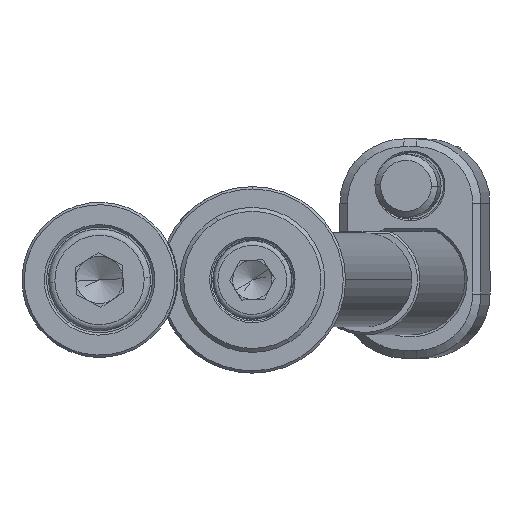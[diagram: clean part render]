
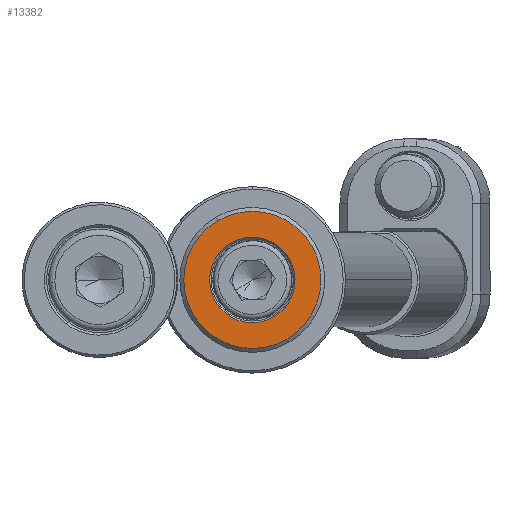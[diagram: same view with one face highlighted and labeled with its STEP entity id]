
A CAD part, front view. The second image highlights one B-rep face of the part: STEP entity #13382.
In plain terms, the highlighted planar face has unit normal (0, -1, 0).
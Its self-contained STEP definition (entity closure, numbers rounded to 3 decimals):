
#336 = DIRECTION ( 'NONE',  ( -0.505, 0., 0.863 ) ) ;
#464 = AXIS2_PLACEMENT_3D ( 'NONE', #9109, #2432, #12248 ) ;
#852 = CARTESIAN_POINT ( 'NONE',  ( 4.42, -4., -7.552 ) ) ;
#1619 = CARTESIAN_POINT ( 'NONE',  ( -4.42, -4., 7.552 ) ) ;
#1808 = VERTEX_POINT ( 'NONE', #852 ) ;
#2432 = DIRECTION ( 'NONE',  ( 0., 1., 0. ) ) ;
#2795 = EDGE_CURVE ( 'NONE', #1808, #10055, #5705, .T. ) ;
#3535 = CARTESIAN_POINT ( 'NONE',  ( -4.531, -4., -2.652 ) ) ;
#4089 = DIRECTION ( 'NONE',  ( 0., -1., 0. ) ) ;
#4090 = ORIENTED_EDGE ( 'NONE', *, *, #11148, .T. ) ;
#4395 = CIRCLE ( 'NONE', #464, 5.45 ) ;
#4559 = FACE_OUTER_BOUND ( 'NONE', #6929, .T. ) ;
#5053 = AXIS2_PLACEMENT_3D ( 'NONE', #3535, #7962, #5446 ) ;
#5281 = CARTESIAN_POINT ( 'NONE',  ( 0., -4., 0. ) ) ;
#5429 = EDGE_CURVE ( 'NONE', #9317, #7335, #9865, .T. ) ;
#5446 = DIRECTION ( 'NONE',  ( -0.505, 0., 0.863 ) ) ;
#5705 = CIRCLE ( 'NONE', #6608, 8.75 ) ;
#5735 = ORIENTED_EDGE ( 'NONE', *, *, #2795, .T. ) ;
#5850 = DIRECTION ( 'NONE',  ( 0., -1., 0. ) ) ;
#6174 = ORIENTED_EDGE ( 'NONE', *, *, #5429, .T. ) ;
#6608 = AXIS2_PLACEMENT_3D ( 'NONE', #10328, #5850, #336 ) ;
#6929 = EDGE_LOOP ( 'NONE', ( #13170, #5735 ) ) ;
#7325 = AXIS2_PLACEMENT_3D ( 'NONE', #5281, #14152, #13258 ) ;
#7335 = VERTEX_POINT ( 'NONE', #9315 ) ;
#7369 = CARTESIAN_POINT ( 'NONE',  ( 0., -4., 0. ) ) ;
#7606 = EDGE_CURVE ( 'NONE', #10055, #1808, #13594, .T. ) ;
#7744 = FACE_BOUND ( 'NONE', #8088, .T. ) ;
#7962 = DIRECTION ( 'NONE',  ( 0., 1., 0. ) ) ;
#8088 = EDGE_LOOP ( 'NONE', ( #6174, #4090 ) ) ;
#9109 = CARTESIAN_POINT ( 'NONE',  ( 0., -4., 0. ) ) ;
#9315 = CARTESIAN_POINT ( 'NONE',  ( -2.753, -4., 4.704 ) ) ;
#9317 = VERTEX_POINT ( 'NONE', #12486 ) ;
#9865 = CIRCLE ( 'NONE', #7325, 5.45 ) ;
#10055 = VERTEX_POINT ( 'NONE', #1619 ) ;
#10328 = CARTESIAN_POINT ( 'NONE',  ( 0., -4., 0. ) ) ;
#11148 = EDGE_CURVE ( 'NONE', #7335, #9317, #4395, .T. ) ;
#12248 = DIRECTION ( 'NONE',  ( -0.505, 0., 0.863 ) ) ;
#12486 = CARTESIAN_POINT ( 'NONE',  ( 2.753, -4., -4.704 ) ) ;
#13170 = ORIENTED_EDGE ( 'NONE', *, *, #7606, .T. ) ;
#13258 = DIRECTION ( 'NONE',  ( -0.505, 0., 0.863 ) ) ;
#13382 = ADVANCED_FACE ( 'NONE', ( #7744, #4559 ), #13496, .F. ) ;
#13496 = PLANE ( 'NONE',  #5053 ) ;
#13594 = CIRCLE ( 'NONE', #14066, 8.75 ) ;
#13994 = DIRECTION ( 'NONE',  ( -0.505, 0., 0.863 ) ) ;
#14066 = AXIS2_PLACEMENT_3D ( 'NONE', #7369, #4089, #13994 ) ;
#14152 = DIRECTION ( 'NONE',  ( 0., 1., 0. ) ) ;
